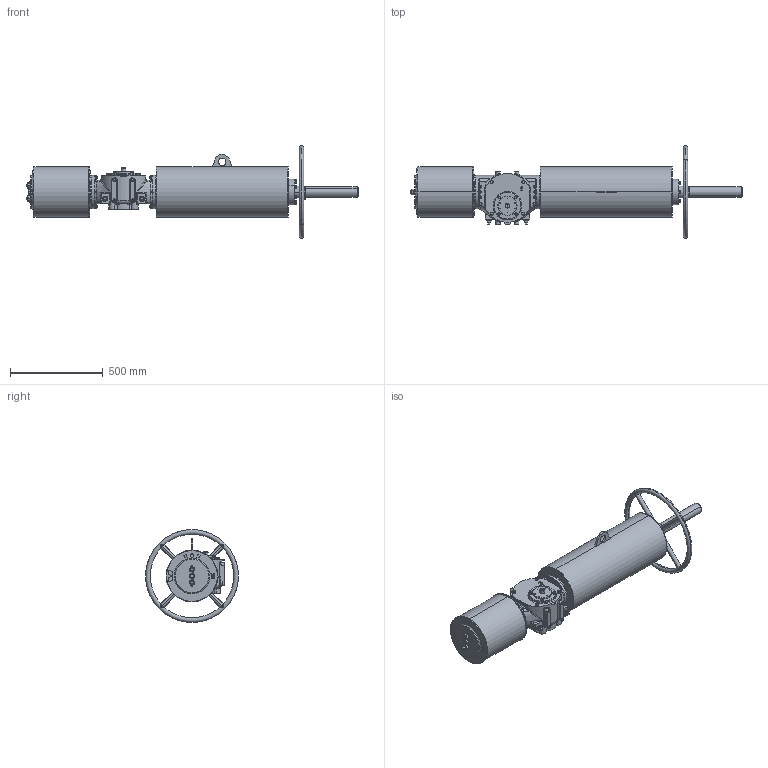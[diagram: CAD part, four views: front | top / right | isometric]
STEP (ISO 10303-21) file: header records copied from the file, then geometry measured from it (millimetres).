
FILE_DESCRIPTION (( 'STEP AP203' ), '1' );
FILE_NAME ('VTS2-250-SR-MS-FC.STEP', '2022-12-31T08:45:28', ( '' ), ( '' ), 'SwSTEP 2.0', 'SolidWorks 2020', '' );
FILE_SCHEMA (( 'CONFIG_CONTROL_DESIGN' ));
Length unit declared in the file: millimetre
Products named in the file (1): VTS2-250-SR-MS-FC
Bounding box: 1788.2 x 498.1 x 498.1 mm (x, y, z)
Volume: 73382909.7 mm3; surface area: 2323319 mm2
Topology: 30 solids, 33 shells, 2204 faces, 5770 edges, 3630 vertices
Faces by surface type: plane 808, cylinder 667, cone 435, bspline 158, sphere 72, torus 64
Entity records: 87136 total; most frequent: CARTESIAN_POINT 34644, ORIENTED_EDGE 11224, DIRECTION 10842, EDGE_CURVE 5612, AXIS2_PLACEMENT_3D 4393, VERTEX_POINT 3594, EDGE_LOOP 2448, CIRCLE 2346
